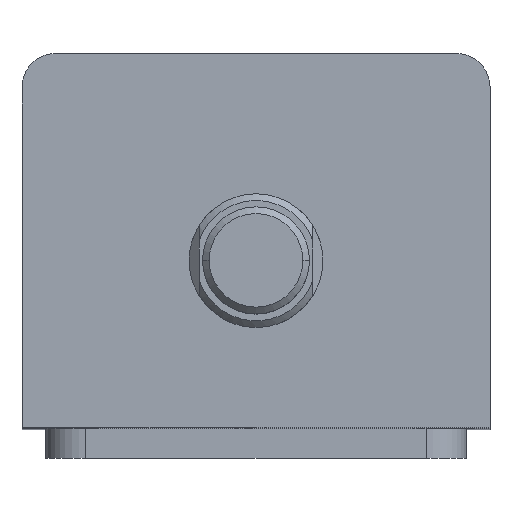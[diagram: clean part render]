
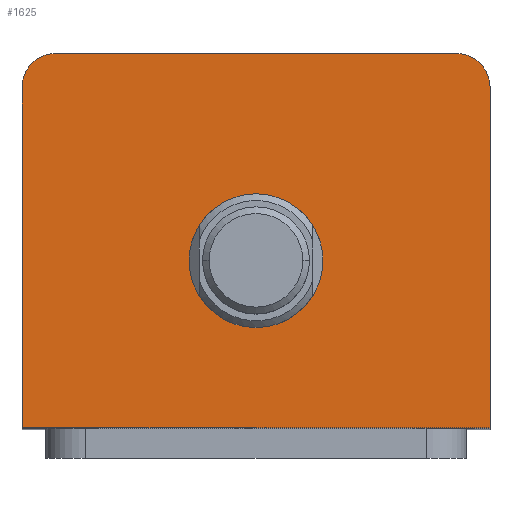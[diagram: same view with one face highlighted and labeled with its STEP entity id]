
A CAD part, top view. The second image highlights one B-rep face of the part: STEP entity #1625.
In plain terms, the highlighted planar face has unit normal (0, 0, 1).
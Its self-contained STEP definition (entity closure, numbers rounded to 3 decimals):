
#42 = ORIENTED_EDGE ( 'NONE', *, *, #2285, .T. ) ;
#60 = ORIENTED_EDGE ( 'NONE', *, *, #2279, .T. ) ;
#61 = ORIENTED_EDGE ( 'NONE', *, *, #2269, .T. ) ;
#65 = ORIENTED_EDGE ( 'NONE', *, *, #2265, .T. ) ;
#95 = EDGE_LOOP ( 'NONE', ( #1574, #1578, #42, #65, #61, #60 ) ) ;
#102 = EDGE_LOOP ( 'NONE', ( #422, #369 ) ) ;
#148 = VERTEX_POINT ( 'NONE', #2636 ) ;
#167 = VERTEX_POINT ( 'NONE', #2615 ) ;
#181 = VERTEX_POINT ( 'NONE', #2577 ) ;
#203 = VERTEX_POINT ( 'NONE', #2528 ) ;
#220 = VERTEX_POINT ( 'NONE', #2500 ) ;
#242 = VERTEX_POINT ( 'NONE', #2470 ) ;
#243 = VERTEX_POINT ( 'NONE', #2474 ) ;
#259 = VERTEX_POINT ( 'NONE', #2477 ) ;
#369 = ORIENTED_EDGE ( 'NONE', *, *, #2188, .F. ) ;
#422 = ORIENTED_EDGE ( 'NONE', *, *, #2212, .F. ) ;
#433 = AXIS2_PLACEMENT_3D ( 'NONE', #823, #816, #815 ) ;
#815 = DIRECTION ( 'NONE',  ( 1., 0., 0. ) ) ;
#816 = DIRECTION ( 'NONE',  ( 0., 0., 1. ) ) ;
#822 = PLANE ( 'NONE',  #433 ) ;
#823 = CARTESIAN_POINT ( 'NONE',  ( 0., 0., 154. ) ) ;
#927 = LINE ( 'NONE', #1371, #930 ) ;
#930 = VECTOR ( 'NONE', #1370, 1000. ) ;
#969 = CIRCLE ( 'NONE', #2305, 5. ) ;
#980 = CIRCLE ( 'NONE', #2298, 5. ) ;
#986 = LINE ( 'NONE', #1215, #989 ) ;
#989 = VECTOR ( 'NONE', #1214, 1000. ) ;
#1006 = LINE ( 'NONE', #3145, #1009 ) ;
#1009 = VECTOR ( 'NONE', #3146, 1000. ) ;
#1018 = LINE ( 'NONE', #3150, #1020 ) ;
#1020 = VECTOR ( 'NONE', #3140, 1000. ) ;
#1214 = DIRECTION ( 'NONE',  ( 0., -1., 0. ) ) ;
#1215 = CARTESIAN_POINT ( 'NONE',  ( -35., 28., 154. ) ) ;
#1223 = DIRECTION ( 'NONE',  ( 1., 0., 0. ) ) ;
#1224 = DIRECTION ( 'NONE',  ( 0., 0., 1. ) ) ;
#1225 = CARTESIAN_POINT ( 'NONE',  ( -30., 23., 154. ) ) ;
#1255 = DIRECTION ( 'NONE',  ( 1., 0., 0. ) ) ;
#1256 = DIRECTION ( 'NONE',  ( 0., 0., 1. ) ) ;
#1257 = CARTESIAN_POINT ( 'NONE',  ( 30., 23., 154. ) ) ;
#1370 = DIRECTION ( 'NONE',  ( 0., 1., 0. ) ) ;
#1371 = CARTESIAN_POINT ( 'NONE',  ( 35., 28., 154. ) ) ;
#1419 = DIRECTION ( 'NONE',  ( 1., 0., 0. ) ) ;
#1420 = DIRECTION ( 'NONE',  ( 0., 0., 1. ) ) ;
#1421 = CARTESIAN_POINT ( 'NONE',  ( 0., -3., 154. ) ) ;
#1516 = DIRECTION ( 'NONE',  ( 1., 0., 0. ) ) ;
#1518 = DIRECTION ( 'NONE',  ( 0., 0., 1. ) ) ;
#1520 = CARTESIAN_POINT ( 'NONE',  ( 0., -3., 154. ) ) ;
#1574 = ORIENTED_EDGE ( 'NONE', *, *, #2228, .T. ) ;
#1578 = ORIENTED_EDGE ( 'NONE', *, *, #2256, .T. ) ;
#1625 = ADVANCED_FACE ( 'NONE', ( #2776, #2780 ), #822, .T. ) ;
#2188 = EDGE_CURVE ( 'NONE', #181, #167, #2945, .T. ) ;
#2212 = EDGE_CURVE ( 'NONE', #167, #181, #2978, .T. ) ;
#2228 = EDGE_CURVE ( 'NONE', #243, #203, #927, .T. ) ;
#2256 = EDGE_CURVE ( 'NONE', #203, #242, #969, .T. ) ;
#2265 = EDGE_CURVE ( 'NONE', #148, #220, #980, .T. ) ;
#2269 = EDGE_CURVE ( 'NONE', #220, #259, #986, .T. ) ;
#2279 = EDGE_CURVE ( 'NONE', #259, #243, #1006, .T. ) ;
#2285 = EDGE_CURVE ( 'NONE', #242, #148, #1018, .T. ) ;
#2298 = AXIS2_PLACEMENT_3D ( 'NONE', #1225, #1224, #1223 ) ;
#2305 = AXIS2_PLACEMENT_3D ( 'NONE', #1257, #1256, #1255 ) ;
#2330 = AXIS2_PLACEMENT_3D ( 'NONE', #1421, #1420, #1419 ) ;
#2346 = AXIS2_PLACEMENT_3D ( 'NONE', #1520, #1518, #1516 ) ;
#2470 = CARTESIAN_POINT ( 'NONE',  ( 30., 28., 154. ) ) ;
#2474 = CARTESIAN_POINT ( 'NONE',  ( 35., -28., 154. ) ) ;
#2477 = CARTESIAN_POINT ( 'NONE',  ( -35., -28., 154. ) ) ;
#2500 = CARTESIAN_POINT ( 'NONE',  ( -35., 23., 154. ) ) ;
#2528 = CARTESIAN_POINT ( 'NONE',  ( 35., 23., 154. ) ) ;
#2577 = CARTESIAN_POINT ( 'NONE',  ( -10., -3., 154. ) ) ;
#2615 = CARTESIAN_POINT ( 'NONE',  ( 10., -3., 154. ) ) ;
#2636 = CARTESIAN_POINT ( 'NONE',  ( -30., 28., 154. ) ) ;
#2776 = FACE_BOUND ( 'NONE', #102, .T. ) ;
#2780 = FACE_OUTER_BOUND ( 'NONE', #95, .T. ) ;
#2945 = CIRCLE ( 'NONE', #2346, 10. ) ;
#2978 = CIRCLE ( 'NONE', #2330, 10. ) ;
#3140 = DIRECTION ( 'NONE',  ( -1., 0., 0. ) ) ;
#3145 = CARTESIAN_POINT ( 'NONE',  ( -35., -28., 154. ) ) ;
#3146 = DIRECTION ( 'NONE',  ( 1., 0., 0. ) ) ;
#3150 = CARTESIAN_POINT ( 'NONE',  ( -35., 28., 154. ) ) ;
